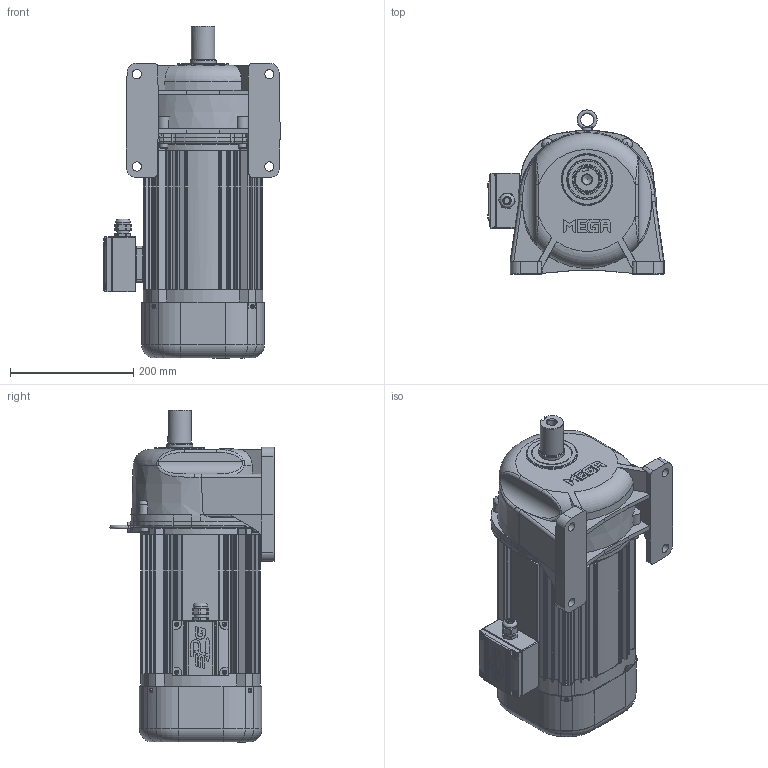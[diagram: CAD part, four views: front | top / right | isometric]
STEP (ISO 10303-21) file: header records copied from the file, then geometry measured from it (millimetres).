
FILE_DESCRIPTION(/* description */ (''),/* implementation_level */ '2;1');
FILE_NAME(/* name */ 'Z:\동력 3D 파일\PML153-(5~30)-PC(D)220[ ]L_(3D).stp',/* time_stamp */ '2021-11-03T13:51:32+09:00',/* author */ ('jaebok'),/* organization */ (''),/* preprocessor_version */ 'ST-DEVELOPER v18.1',/* originating_system */ 'Autodesk Inventor 2022',/* authorisation */ '');
FILE_SCHEMA (('AUTOMOTIVE_DESIGN { 1 0 10303 214 3 1 1 }'));
Length unit declared in the file: millimetre
Products named in the file (1): 부품5
Bounding box: 286 x 266.09 x 538.6 mm (x, y, z)
Volume: 5494277.2 mm3; surface area: 1215808.8 mm2
Topology: 2 solids, 33 shells, 2895 faces, 7440 edges, 4591 vertices
Faces by surface type: plane 1014, cylinder 806, bspline 612, torus 247, cone 176, sphere 40
Full cylindrical faces by diameter (mm): 2 x1, 3.242 x4, 3.25 x1, 3.6 x4, 4 x21, 5 x13, 6 x5, 6.647 x4, 6.8 x5, 7 x9, 8 x13, 8.8 x4, 9 x4, 10 x1, 12.5 x1, 13 x4, 15 x5, 16 x1, 20 x2, 20.6 x1, 21 x1, 23.5 x1, 23.6 x1, 25 x1, 28 x1, 36 x1, 38 x1, 39.6 x1, 40.15 x1, 42 x3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
Entity records: 112702 total; most frequent: CARTESIAN_POINT 42769, ORIENTED_EDGE 14662, DIRECTION 13099, EDGE_CURVE 7331, AXIS2_PLACEMENT_3D 5175, VERTEX_POINT 4590, EDGE_LOOP 3107, FACE_OUTER_BOUND 2895
